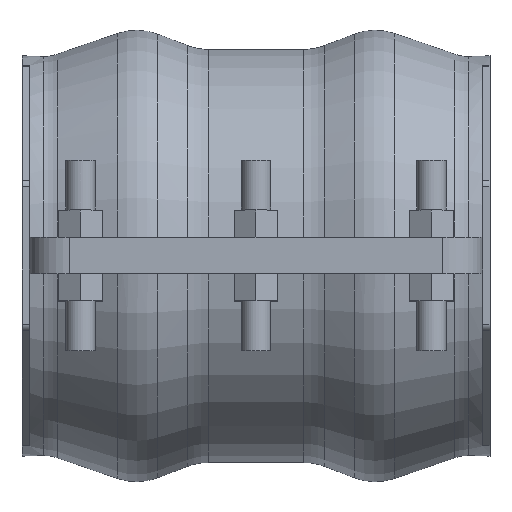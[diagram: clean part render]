
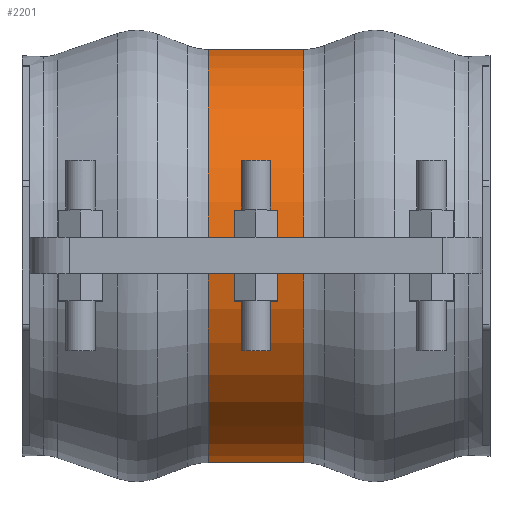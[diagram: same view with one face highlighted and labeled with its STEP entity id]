
A CAD part, top view. The second image highlights one B-rep face of the part: STEP entity #2201.
In plain terms, the highlighted cylindrical face has radius 90.009 mm (diameter 180.017 mm), a partial arc.
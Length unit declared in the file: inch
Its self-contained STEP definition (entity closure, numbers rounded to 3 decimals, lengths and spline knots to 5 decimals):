
#257=FACE_OUTER_BOUND('',#382,.T.);
#382=EDGE_LOOP('',(#1818,#1819,#1820,#1821));
#574=LINE('',#3580,#753);
#577=LINE('',#3657,#756);
#753=VECTOR('',#2893,0.3937);
#756=VECTOR('',#2904,0.3937);
#816=CIRCLE('',#2384,3.54365);
#817=CIRCLE('',#2386,3.54365);
#1017=VERTEX_POINT('',#3572);
#1018=VERTEX_POINT('',#3579);
#1029=VERTEX_POINT('',#3649);
#1030=VERTEX_POINT('',#3656);
#1290=EDGE_CURVE('',#1018,#1017,#574,.T.);
#1305=EDGE_CURVE('',#1030,#1029,#577,.T.);
#1316=EDGE_CURVE('',#1018,#1029,#816,.T.);
#1317=EDGE_CURVE('',#1017,#1030,#817,.T.);
#1818=ORIENTED_EDGE('',*,*,#1290,.T.);
#1819=ORIENTED_EDGE('',*,*,#1317,.T.);
#1820=ORIENTED_EDGE('',*,*,#1305,.T.);
#1821=ORIENTED_EDGE('',*,*,#1316,.F.);
#1994=CYLINDRICAL_SURFACE('',#2385,3.54365);
#2201=ADVANCED_FACE('',(#257),#1994,.T.);
#2384=AXIS2_PLACEMENT_3D('',#3701,#2925,#2926);
#2385=AXIS2_PLACEMENT_3D('',#3702,#2927,#2928);
#2386=AXIS2_PLACEMENT_3D('',#3703,#2929,#2930);
#2893=DIRECTION('',(-1.,0.,0.));
#2904=DIRECTION('',(1.,0.,0.));
#2925=DIRECTION('center_axis',(1.,0.,0.));
#2926=DIRECTION('ref_axis',(0.,0.,-1.));
#2927=DIRECTION('center_axis',(1.,0.,0.));
#2928=DIRECTION('ref_axis',(0.,0.,
-1.));
#2929=DIRECTION('center_axis',(1.,0.,0.));
#2930=DIRECTION('ref_axis',(0.,0.,-1.));
#3572=CARTESIAN_POINT('',(-0.81466,-0.3125,3.52984));
#3579=CARTESIAN_POINT('',(0.81466,-0.3125,3.52984));
#3580=CARTESIAN_POINT('',(0.,-0.3125,3.52984));
#3649=CARTESIAN_POINT('',(0.81466,0.3125,3.52984));
#3656=CARTESIAN_POINT('',(-0.81466,0.3125,3.52984));
#3657=CARTESIAN_POINT('',(0.,0.3125,3.52984));
#3701=CARTESIAN_POINT('Origin',(0.81466,0.,
0.));
#3702=CARTESIAN_POINT('Origin',(0.,0.,0.));
#3703=CARTESIAN_POINT('Origin',(-0.81466,0.,
0.));
